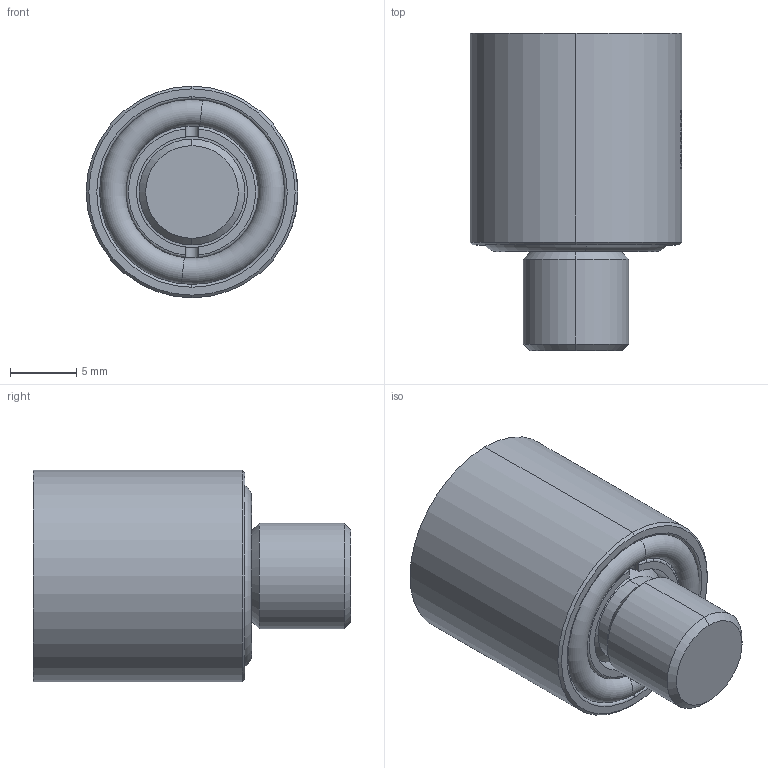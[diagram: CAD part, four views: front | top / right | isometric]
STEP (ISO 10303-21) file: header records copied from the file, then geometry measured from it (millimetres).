
FILE_DESCRIPTION (( 'STEP AP214' ), '1' );
FILE_NAME ('SA160016.STEP', '2018-04-09T10:02:21', ( '' ), ( '' ), 'SwSTEP 2.0', 'SolidWorks 2017', '' );
FILE_SCHEMA (( 'AUTOMOTIVE_DESIGN' ));
Length unit declared in the file: millimetre
Products named in the file (5): SA160016; JT10x2; 9SA160016-I_acabado; 9SA160016-C_acabado; 9SA160016-T
Assembly tree (4 placements, depth 2):
  SA160016
    9SA160016-C_acabado
    9SA160016-I_acabado
    9SA160016-T
    JT10x2
Bounding box: 16 x 24 x 16 mm (x, y, z)
Volume: 3337.8 mm3; surface area: 2931 mm2
Topology: 4 solids, 4 shells, 430 faces, 1135 edges, 741 vertices
Faces by surface type: bspline 236, plane 104, cylinder 56, cone 22, torus 12
Entity records: 25991 total; most frequent: CARTESIAN_POINT 13596, ORIENTED_EDGE 2266, EDGE_CURVE 1133, DIRECTION 865, B_SPLINE_CURVE_WITH_KNOTS 788, VERTEX_POINT 741, EDGE_LOOP 466, ADVANCED_FACE 430
